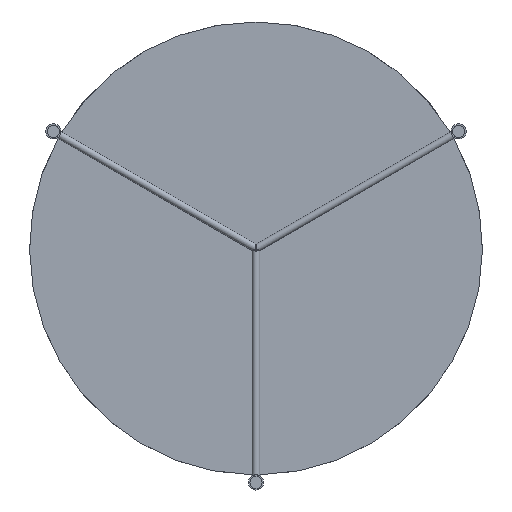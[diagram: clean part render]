
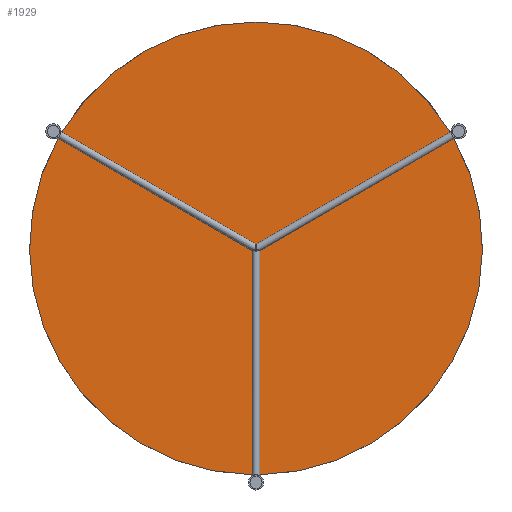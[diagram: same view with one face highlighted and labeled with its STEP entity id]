
A CAD part, front view. The second image highlights one B-rep face of the part: STEP entity #1929.
In plain terms, the highlighted planar face has unit normal (0, -1, 0).
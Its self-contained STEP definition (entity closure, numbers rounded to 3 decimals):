
#5 = CARTESIAN_POINT ( 'NONE',  ( -6., 351., -299.94 ) ) ;
#16 = AXIS2_PLACEMENT_3D ( 'NONE', #2090, #4183, #1414 ) ;
#19 = VECTOR ( 'NONE', #3871, 1000. ) ;
#42 = CARTESIAN_POINT ( 'NONE',  ( 6., 351., -302.07 ) ) ;
#52 = DIRECTION ( 'NONE',  ( 0., 0., -1. ) ) ;
#89 = CIRCLE ( 'NONE', #16, 300. ) ;
#141 = ORIENTED_EDGE ( 'NONE', *, *, #2790, .T. ) ;
#181 = EDGE_CURVE ( 'NONE', #580, #4175, #204, .T. ) ;
#204 = LINE ( 'NONE', #2263, #4134 ) ;
#211 = ORIENTED_EDGE ( 'NONE', *, *, #1592, .T. ) ;
#239 = EDGE_CURVE ( 'NONE', #1221, #1604, #3697, .T. ) ;
#277 = DIRECTION ( 'NONE',  ( 0., -1., 0. ) ) ;
#292 = CARTESIAN_POINT ( 'NONE',  ( -264.6, 351., 145.839 ) ) ;
#461 = AXIS2_PLACEMENT_3D ( 'NONE', #4442, #582, #2273 ) ;
#466 = ORIENTED_EDGE ( 'NONE', *, *, #2384, .T. ) ;
#576 = EDGE_CURVE ( 'NONE', #1534, #3022, #688, .T. ) ;
#580 = VERTEX_POINT ( 'NONE', #4542 ) ;
#582 = DIRECTION ( 'NONE',  ( 0., 1., 0. ) ) ;
#688 = LINE ( 'NONE', #2074, #1485 ) ;
#691 = PLANE ( 'NONE',  #3774 ) ;
#703 = VERTEX_POINT ( 'NONE', #292 ) ;
#778 = CARTESIAN_POINT ( 'NONE',  ( -262.756, 351., 144.774 ) ) ;
#781 = ORIENTED_EDGE ( 'NONE', *, *, #1483, .T. ) ;
#819 = CIRCLE ( 'NONE', #4504, 300. ) ;
#870 = CARTESIAN_POINT ( 'NONE',  ( 258.6, 351., 156.231 ) ) ;
#939 = ORIENTED_EDGE ( 'NONE', *, *, #3374, .T. ) ;
#965 = EDGE_LOOP ( 'NONE', ( #2079, #211, #2651, #3683, #2649, #141, #1439, #2494, #2882, #781, #466, #939, #3276 ) ) ;
#974 = CIRCLE ( 'NONE', #461, 10. ) ;
#1022 = DIRECTION ( 'NONE',  ( 0., 0., -1. ) ) ;
#1050 = CIRCLE ( 'NONE', #2532, 10. ) ;
#1088 = EDGE_CURVE ( 'NONE', #1604, #4185, #4467, .T. ) ;
#1221 = VERTEX_POINT ( 'NONE', #1699 ) ;
#1240 = CARTESIAN_POINT ( 'NONE',  ( 256.756, 351., 155.166 ) ) ;
#1297 = DIRECTION ( 'NONE',  ( -0.866, 0., -0.5 ) ) ;
#1316 = CARTESIAN_POINT ( 'NONE',  ( 256.756, 351., 155.166 ) ) ;
#1338 = DIRECTION ( 'NONE',  ( 0., 0., 1. ) ) ;
#1414 = DIRECTION ( 'NONE',  ( 0., 0., -1. ) ) ;
#1439 = ORIENTED_EDGE ( 'NONE', *, *, #3538, .T. ) ;
#1483 = EDGE_CURVE ( 'NONE', #4175, #2138, #974, .T. ) ;
#1485 = VECTOR ( 'NONE', #3825, 1000. ) ;
#1489 = CIRCLE ( 'NONE', #1782, 10. ) ;
#1534 = VERTEX_POINT ( 'NONE', #3045 ) ;
#1563 = EDGE_CURVE ( 'NONE', #1738, #1534, #89, .T. ) ;
#1592 = EDGE_CURVE ( 'NONE', #3022, #703, #1050, .T. ) ;
#1604 = VERTEX_POINT ( 'NONE', #5 ) ;
#1635 = EDGE_CURVE ( 'NONE', #3051, #580, #2680, .T. ) ;
#1670 = DIRECTION ( 'NONE',  ( 0., 0., -1. ) ) ;
#1699 = CARTESIAN_POINT ( 'NONE',  ( -262.756, 351., 144.774 ) ) ;
#1738 = VERTEX_POINT ( 'NONE', #2551 ) ;
#1754 = DIRECTION ( 'NONE',  ( 0., 0., -1. ) ) ;
#1782 = AXIS2_PLACEMENT_3D ( 'NONE', #3479, #2818, #3460 ) ;
#1902 = CARTESIAN_POINT ( 'NONE',  ( -258.6, 351., 156.231 ) ) ;
#1929 = ADVANCED_FACE ( 'NONE', ( #2850 ), #691, .T. ) ;
#1979 = CARTESIAN_POINT ( 'NONE',  ( -6., 351., -310.07 ) ) ;
#2039 = CARTESIAN_POINT ( 'NONE',  ( 6., 351., -299.94 ) ) ;
#2046 = CARTESIAN_POINT ( 'NONE',  ( 0., 351., 0. ) ) ;
#2074 = CARTESIAN_POINT ( 'NONE',  ( -265.528, 351., 160.231 ) ) ;
#2079 = ORIENTED_EDGE ( 'NONE', *, *, #576, .T. ) ;
#2090 = CARTESIAN_POINT ( 'NONE',  ( 0., 351., 0. ) ) ;
#2103 = DIRECTION ( 'NONE',  ( 0., -1., 0. ) ) ;
#2133 = CARTESIAN_POINT ( 'NONE',  ( 0., 351., 0. ) ) ;
#2138 = VERTEX_POINT ( 'NONE', #870 ) ;
#2156 = VECTOR ( 'NONE', #2749, 1000. ) ;
#2263 = CARTESIAN_POINT ( 'NONE',  ( 271.528, 351., 149.839 ) ) ;
#2273 = DIRECTION ( 'NONE',  ( 0., 0., -1. ) ) ;
#2282 = CARTESIAN_POINT ( 'NONE',  ( -6., 351., -302.07 ) ) ;
#2384 = EDGE_CURVE ( 'NONE', #2138, #3070, #4476, .T. ) ;
#2469 = LINE ( 'NONE', #778, #19 ) ;
#2494 = ORIENTED_EDGE ( 'NONE', *, *, #1635, .T. ) ;
#2532 = AXIS2_PLACEMENT_3D ( 'NONE', #4139, #2743, #1022 ) ;
#2551 = CARTESIAN_POINT ( 'NONE',  ( 0., 351., 300. ) ) ;
#2628 = VERTEX_POINT ( 'NONE', #42 ) ;
#2649 = ORIENTED_EDGE ( 'NONE', *, *, #1088, .T. ) ;
#2651 = ORIENTED_EDGE ( 'NONE', *, *, #4471, .T. ) ;
#2680 = CIRCLE ( 'NONE', #3487, 300. ) ;
#2714 = DIRECTION ( 'NONE',  ( 0.866, 0., 0.5 ) ) ;
#2743 = DIRECTION ( 'NONE',  ( 0., 1., 0. ) ) ;
#2749 = DIRECTION ( 'NONE',  ( 0., 0., -1. ) ) ;
#2769 = DIRECTION ( 'NONE',  ( 0., 0., -1. ) ) ;
#2790 = EDGE_CURVE ( 'NONE', #4185, #2628, #1489, .T. ) ;
#2818 = DIRECTION ( 'NONE',  ( 0., 1., 0. ) ) ;
#2850 = FACE_OUTER_BOUND ( 'NONE', #965, .T. ) ;
#2882 = ORIENTED_EDGE ( 'NONE', *, *, #181, .T. ) ;
#3022 = VERTEX_POINT ( 'NONE', #1902 ) ;
#3045 = CARTESIAN_POINT ( 'NONE',  ( -256.756, 351., 155.166 ) ) ;
#3051 = VERTEX_POINT ( 'NONE', #4396 ) ;
#3052 = VECTOR ( 'NONE', #1338, 1000. ) ;
#3064 = CARTESIAN_POINT ( 'NONE',  ( 264.6, 351., 145.839 ) ) ;
#3070 = VERTEX_POINT ( 'NONE', #1240 ) ;
#3135 = DIRECTION ( 'NONE',  ( 0., -1., 0. ) ) ;
#3222 = DIRECTION ( 'NONE',  ( 0., -1., 0. ) ) ;
#3276 = ORIENTED_EDGE ( 'NONE', *, *, #1563, .T. ) ;
#3374 = EDGE_CURVE ( 'NONE', #3070, #1738, #819, .T. ) ;
#3381 = LINE ( 'NONE', #2039, #3052 ) ;
#3407 = AXIS2_PLACEMENT_3D ( 'NONE', #3512, #277, #1670 ) ;
#3460 = DIRECTION ( 'NONE',  ( 0., 0., -1. ) ) ;
#3479 = CARTESIAN_POINT ( 'NONE',  ( 0., 351., -310.07 ) ) ;
#3487 = AXIS2_PLACEMENT_3D ( 'NONE', #2046, #3135, #2769 ) ;
#3512 = CARTESIAN_POINT ( 'NONE',  ( 0., 351., 0. ) ) ;
#3538 = EDGE_CURVE ( 'NONE', #2628, #3051, #3381, .T. ) ;
#3683 = ORIENTED_EDGE ( 'NONE', *, *, #239, .T. ) ;
#3697 = CIRCLE ( 'NONE', #3407, 300. ) ;
#3774 = AXIS2_PLACEMENT_3D ( 'NONE', #4246, #2103, #1754 ) ;
#3779 = VECTOR ( 'NONE', #1297, 1000. ) ;
#3825 = DIRECTION ( 'NONE',  ( -0.866, 0., 0.5 ) ) ;
#3871 = DIRECTION ( 'NONE',  ( 0.866, 0., -0.5 ) ) ;
#4134 = VECTOR ( 'NONE', #2714, 1000. ) ;
#4139 = CARTESIAN_POINT ( 'NONE',  ( -268.528, 351., 155.035 ) ) ;
#4175 = VERTEX_POINT ( 'NONE', #3064 ) ;
#4183 = DIRECTION ( 'NONE',  ( 0., -1., 0. ) ) ;
#4185 = VERTEX_POINT ( 'NONE', #2282 ) ;
#4246 = CARTESIAN_POINT ( 'NONE',  ( 0., 351., 0. ) ) ;
#4396 = CARTESIAN_POINT ( 'NONE',  ( 6., 351., -299.94 ) ) ;
#4442 = CARTESIAN_POINT ( 'NONE',  ( 268.528, 351., 155.035 ) ) ;
#4467 = LINE ( 'NONE', #1979, #2156 ) ;
#4471 = EDGE_CURVE ( 'NONE', #703, #1221, #2469, .T. ) ;
#4476 = LINE ( 'NONE', #1316, #3779 ) ;
#4504 = AXIS2_PLACEMENT_3D ( 'NONE', #2133, #3222, #52 ) ;
#4542 = CARTESIAN_POINT ( 'NONE',  ( 262.756, 351., 144.774 ) ) ;
